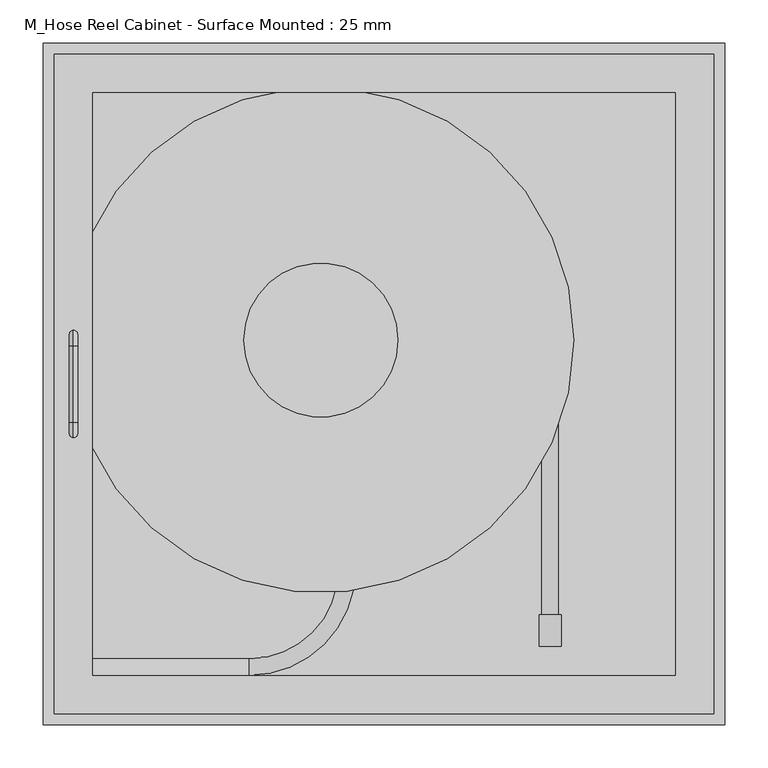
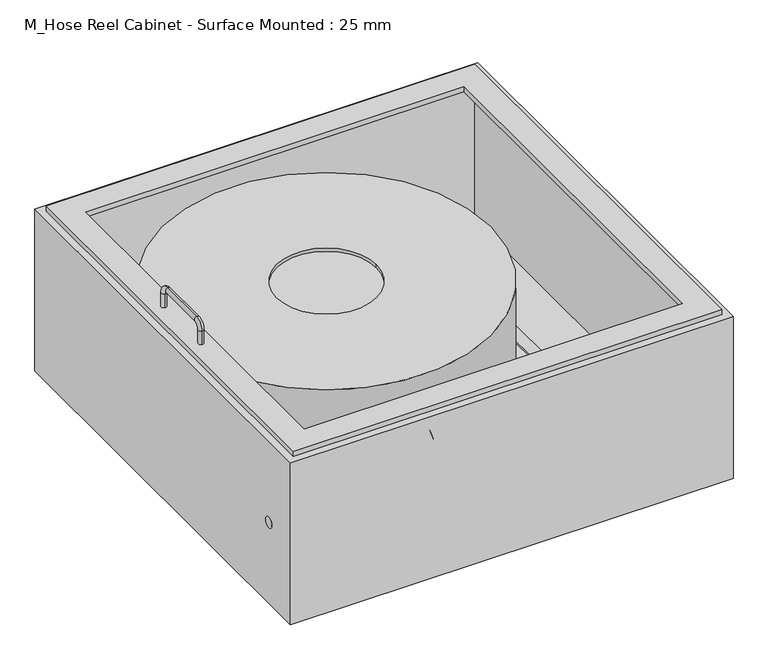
"""IFC4 building model written with IfcOpenShell, lengths in millimetres: proxy geometry, M_Hose Reel Cabinet - Surface Mounted : 25 mm."""

from ifc_helpers import new_model, si_unit, point, frame, frame_2d, origin, place, context, project, spatial, polyline, circle_curve, ellipse_curve, trimmed, segment, composite_curve, outline, extrude, faceted_brep, source, transform, mapped, element, save
from ifc_brep_helpers import plane_surface, cylinder_surface, revolved_surface, advanced_brep


def m_hose_reel_cabinet_surface_mounted_25_mm_ba365d7c(model_context):
    return source(origin(), model_context, "Body", "SolidModel", [
        advanced_brep(
        [(-365.125, 444.5, 265.1125), (219.075, 444.5, 265.1125), (15.875, 444.5, 265.1125), (-161.925, 444.5, 265.1125), (-365.125, 444.5, 20.6375), (219.075, 444.5, 20.6375), (-161.925, 444.5, 258.7625), (15.875, 444.5, 258.7625)],
        [
            (0, 1, circle_curve(frame((-73.025, 444.5, 265.1125), z_axis=(0.0, 0.0, 1.0), x_axis=(1.0, 0.0, 0.0)), 292.1)),
            (1, 0, circle_curve(frame((-73.025, 444.5, 265.1125), z_axis=(0.0, 0.0, 1.0), x_axis=(1.0, 0.0, 0.0)), 292.1)),
            (2, 3, circle_curve(frame((-73.025, 444.5, 265.1125), z_axis=(0.0, 0.0, -1.0), x_axis=(1.0, 0.0, 0.0)), 88.9)),
            (3, 2, circle_curve(frame((-73.025, 444.5, 265.1125), z_axis=(0.0, 0.0, -1.0), x_axis=(1.0, 0.0, 0.0)), 88.9)),
            (4, 5, circle_curve(frame((-73.025, 444.5, 20.6375), z_axis=(0.0, 0.0, -1.0), x_axis=(1.0, 0.0, 0.0)), 292.1)),
            (5, 4, circle_curve(frame((-73.025, 444.5, 20.6375), z_axis=(0.0, 0.0, -1.0), x_axis=(1.0, 0.0, 0.0)), 292.1)),
            (0, 4),
            (5, 1),
            (6, 7, circle_curve(frame((-73.025, 444.5, 258.7625), z_axis=(0.0, 0.0, 1.0), x_axis=(1.0, 0.0, 0.0)), 88.9)),
            (7, 6, circle_curve(frame((-73.025, 444.5, 258.7625), z_axis=(0.0, 0.0, 1.0), x_axis=(1.0, 0.0, 0.0)), 88.9)),
            (6, 3),
            (2, 7),
        ],
        [
            plane_surface(frame((219.075, 444.5, 265.1125), z_axis=(0.0, 0.0, 1.0), x_axis=(0.0, 1.0, 0.0))),
            plane_surface(frame((219.075, 444.5, 20.6375), z_axis=(0.0, 0.0, -1.0), x_axis=(0.0, -1.0, 0.0))),
            cylinder_surface(frame((-73.025, 444.5, 20.6375), z_axis=(0.0, 0.0, 1.0), x_axis=(1.0, 0.0, 0.0)), 292.1),
            plane_surface(frame((15.875, 444.5, 258.7625), z_axis=(0.0, 0.0, 1.0), x_axis=(0.0, -1.0, 0.0))),
            revolved_surface(polyline([(15.875, 444.5, 265.1125), (15.875, 444.5, 258.7625)]), (-73.025, 444.5, 258.7625), (0.0, 0.0, 1.0)),
        ],
        [
            (0, [[1, 2], [3, 4]]),
            (1, [[5, 6]]),
            (2, [[-1, 7, -6, 8]]),
            (2, [[-2, -8, -5, -7]]),
            (3, [[9, 10]]),
            (4, [[-9, 11, -3, 12]]),
            (4, [[-10, -12, -4, -11]]),
        ],
    ),
        advanced_brep(
        [(-358.775, 455.6125, 314.325), (-358.775, 446.0875, 314.325), (-358.775, 455.6125, 339.725), (-358.775, 446.0875, 339.725), (-358.775, 438.15, 347.6625), (-358.775, 438.15, 357.1875), (-358.775, 349.25, 357.1875), (-358.775, 349.25, 347.6625), (-358.775, 341.3125, 339.725), (-358.775, 331.7875, 339.725), (-358.775, 331.7875, 314.325), (-358.775, 341.3125, 314.325)],
        [
            (0, 1, circle_curve(frame((-358.775, 450.85, 314.325), z_axis=(0.0, 0.0, -1.0), x_axis=(0.0, -1.0, 0.0)), 4.7625)),
            (1, 0, circle_curve(frame((-358.775, 450.85, 314.325), z_axis=(0.0, 0.0, -1.0), x_axis=(0.0, -1.0, 0.0)), 4.7625)),
            (0, 2),
            (2, 3, circle_curve(frame((-358.775, 450.85, 339.725), z_axis=(0.0, 0.0, -1.0), x_axis=(0.0, -1.0, 0.0)), 4.7625)),
            (3, 1),
            (3, 2, circle_curve(frame((-358.775, 450.85, 339.725), z_axis=(0.0, 0.0, -1.0), x_axis=(0.0, -1.0, 0.0)), 4.7625)),
            (4, 3, circle_curve(frame((-358.775, 438.15, 339.725), z_axis=(-1.0, 0.0, 0.0), x_axis=(0.0, 1.0, 0.0)), 7.9375)),
            (2, 5, circle_curve(frame((-358.775, 438.15, 339.725), z_axis=(1.0, 0.0, 0.0), x_axis=(0.0, 1.0, 0.0)), 17.4625)),
            (5, 4, circle_curve(frame((-358.775, 438.15, 352.425), z_axis=(0.0, 1.0, 0.0), x_axis=(0.0, 0.0, -1.0)), 4.7625)),
            (4, 5, circle_curve(frame((-358.775, 438.15, 352.425), z_axis=(0.0, 1.0, 0.0), x_axis=(0.0, 0.0, -1.0)), 4.7625)),
            (5, 6),
            (6, 7, circle_curve(frame((-358.775, 349.25, 352.425), z_axis=(0.0, 1.0, 0.0), x_axis=(0.0, 0.0, -1.0)), 4.7625)),
            (7, 4),
            (7, 6, circle_curve(frame((-358.775, 349.25, 352.425), z_axis=(0.0, 1.0, 0.0), x_axis=(0.0, 0.0, -1.0)), 4.7625)),
            (8, 7, circle_curve(frame((-358.775, 349.25, 339.725), z_axis=(-1.0, 0.0, 0.0), x_axis=(0.0, 0.0, 1.0)), 7.9375)),
            (6, 9, circle_curve(frame((-358.775, 349.25, 339.725), z_axis=(1.0, 0.0, 0.0), x_axis=(0.0, 0.0, 1.0)), 17.4625)),
            (9, 8, circle_curve(frame((-358.775, 336.55, 339.725), z_axis=(0.0, 0.0, 1.0), x_axis=(0.0, 1.0, 0.0)), 4.7625)),
            (8, 9, circle_curve(frame((-358.775, 336.55, 339.725), z_axis=(0.0, 0.0, 1.0), x_axis=(0.0, 1.0, 0.0)), 4.7625)),
            (10, 11, circle_curve(frame((-358.775, 336.55, 314.325), z_axis=(0.0, 0.0, -1.0), x_axis=(0.0, 1.0, 0.0)), 4.7625)),
            (11, 10, circle_curve(frame((-358.775, 336.55, 314.325), z_axis=(0.0, 0.0, -1.0), x_axis=(0.0, 1.0, 0.0)), 4.7625)),
            (9, 10),
            (11, 8),
        ],
        [
            plane_surface(frame((-358.775, 450.85, 314.325), z_axis=(0.0, 0.0, -1.0), x_axis=(1.0, 0.0, 0.0))),
            cylinder_surface(frame((-358.775, 450.85, 314.325), z_axis=(0.0, 0.0, -1.0), x_axis=(0.0, -1.0, 0.0)), 4.7625),
            revolved_surface(trimmed(ellipse_curve(frame((-358.775, 450.85, 339.725), z_axis=(0.0, 0.0, -1.0), x_axis=(0.0, -1.0, 0.0)), 4.7625, 4.7625), [point((-358.775, 455.6125, 339.725))], [point((-358.775, 446.0875, 339.725))], True, "CARTESIAN"), (-358.775, 438.15, 339.725), (1.0, 0.0, 0.0)),
            revolved_surface(trimmed(ellipse_curve(frame((-358.775, 450.85, 339.725), z_axis=(0.0, 0.0, -1.0), x_axis=(0.0, -1.0, 0.0)), 4.7625, 4.7625), [point((-358.775, 446.0875, 339.725))], [point((-358.775, 455.6125, 339.725))], True, "CARTESIAN"), (-358.775, 438.15, 339.725), (1.0, 0.0, 0.0)),
            cylinder_surface(frame((-358.775, 438.15, 352.425), z_axis=(0.0, 1.0, 0.0), x_axis=(0.0, 0.0, -1.0)), 4.7625),
            revolved_surface(trimmed(ellipse_curve(frame((-358.775, 349.25, 352.425), z_axis=(0.0, 1.0, 0.0), x_axis=(0.0, 0.0, -1.0)), 4.7625, 4.7625), [point((-358.775, 349.25, 357.1875))], [point((-358.775, 349.25, 347.6625))], True, "CARTESIAN"), (-358.775, 349.25, 339.725), (1.0, 0.0, 0.0)),
            revolved_surface(trimmed(ellipse_curve(frame((-358.775, 349.25, 352.425), z_axis=(0.0, 1.0, 0.0), x_axis=(0.0, 0.0, -1.0)), 4.7625, 4.7625), [point((-358.775, 349.25, 347.6625))], [point((-358.775, 349.25, 357.1875))], True, "CARTESIAN"), (-358.775, 349.25, 339.725), (1.0, 0.0, 0.0)),
            plane_surface(frame((-358.775, 336.55, 314.325), z_axis=(0.0, 0.0, -1.0), x_axis=(1.0, 0.0, 0.0))),
            cylinder_surface(frame((-358.775, 336.55, 339.725), z_axis=(0.0, 0.0, 1.0), x_axis=(0.0, 1.0, 0.0)), 4.7625),
        ],
        [
            (0, [[1, 2]]),
            (1, [[-1, 3, 4, 5]]),
            (1, [[-2, -5, 6, -3]]),
            (2, [[7, -4, 8, 9]]),
            (3, [[-8, -6, -7, 10]]),
            (4, [[-9, 11, 12, 13]]),
            (4, [[-10, -13, 14, -11]]),
            (5, [[15, -12, 16, 17]]),
            (6, [[-16, -14, -15, 18]]),
            (7, [[19, 20]]),
            (8, [[-17, 21, -20, 22]]),
            (8, [[-18, -22, -19, -21]]),
        ],
    ),
        advanced_brep(
        [(-52.3875, 179.3875, 152.4), (-33.3375, 179.3875, 152.4), (-155.575, 57.15, 152.4), (-155.575, 76.2, 152.4), (-393.7, 76.2, 152.4), (-393.7, 57.15, 152.4)],
        [
            (0, 1, circle_curve(frame((-42.8625, 179.3875, 152.4), z_axis=(0.0, 1.0, 0.0), x_axis=(1.0, 0.0, 0.0)), 9.525)),
            (1, 0, circle_curve(frame((-42.8625, 179.3875, 152.4), z_axis=(0.0, 1.0, 0.0), x_axis=(1.0, 0.0, 0.0)), 9.525)),
            (2, 1, circle_curve(frame((-155.575, 179.3875, 152.4), z_axis=(0.0, 0.0, 1.0), x_axis=(1.0, 0.0, 0.0)), 122.2375)),
            (0, 3, circle_curve(frame((-155.575, 179.3875, 152.4), z_axis=(0.0, 0.0, -1.0), x_axis=(1.0, 0.0, 0.0)), 103.1875)),
            (3, 2, circle_curve(frame((-155.575, 66.675, 152.4), z_axis=(1.0, 0.0, 0.0), x_axis=(0.0, -1.0, 0.0)), 9.525)),
            (2, 3, circle_curve(frame((-155.575, 66.675, 152.4), z_axis=(1.0, 0.0, 0.0), x_axis=(0.0, -1.0, 0.0)), 9.525)),
            (4, 5, circle_curve(frame((-393.7, 66.675, 152.4), z_axis=(-1.0, 0.0, 0.0), x_axis=(0.0, -1.0, 0.0)), 9.525)),
            (5, 4, circle_curve(frame((-393.7, 66.675, 152.4), z_axis=(-1.0, 0.0, 0.0), x_axis=(0.0, -1.0, 0.0)), 9.525)),
            (3, 4),
            (5, 2),
        ],
        [
            plane_surface(frame((-42.8625, 179.3875, 152.4), z_axis=(0.0, 1.0, 0.0), x_axis=(0.0, 0.0, 1.0))),
            revolved_surface(trimmed(ellipse_curve(frame((-42.8625, 179.3875, 152.4), z_axis=(0.0, 1.0, 0.0), x_axis=(1.0, 0.0, 0.0)), 9.525, 9.525), [point((-52.3875, 179.3875, 152.4))], [point((-33.3375, 179.3875, 152.4))], True, "CARTESIAN"), (-155.575, 179.3875, 152.4), (0.0, 0.0, -1.0)),
            revolved_surface(trimmed(ellipse_curve(frame((-42.8625, 179.3875, 152.4), z_axis=(0.0, 1.0, 0.0), x_axis=(1.0, 0.0, 0.0)), 9.525, 9.525), [point((-33.3375, 179.3875, 152.4))], [point((-52.3875, 179.3875, 152.4))], True, "CARTESIAN"), (-155.575, 179.3875, 152.4), (0.0, 0.0, -1.0)),
            plane_surface(frame((-393.7, 66.675, 152.4), z_axis=(-1.0, 0.0, 0.0), x_axis=(0.0, 0.0, 1.0))),
            cylinder_surface(frame((-155.575, 66.675, 152.4), z_axis=(1.0, 0.0, 0.0), x_axis=(0.0, -1.0, 0.0)), 9.525),
        ],
        [
            (0, [[1, 2]]),
            (1, [[3, -1, 4, 5]]),
            (2, [[-4, -2, -3, 6]]),
            (3, [[7, 8]]),
            (4, [[-5, 9, -8, 10]]),
            (4, [[-6, -10, -7, -9]]),
        ],
    ),
        extrude(outline(composite_curve([segment(trimmed(circle_curve(frame_2d((147.6375, 192.0875)), 9.525), [point((147.6375, 182.5625))], [point((147.6375, 201.6125))], False, "CARTESIAN"), True, "CONTINUOUS"), segment(trimmed(circle_curve(frame_2d((147.6375, 192.0875)), 9.525), [point((147.6375, 201.6125))], [point((147.6375, 182.5625))], False, "CARTESIAN"), True, "CONTINUOUS")], self_intersect=False)), frame((0.0, 127.0, 0.0), z_axis=(0.0, 1.0, 0.0), x_axis=(0.0, 0.0, 1.0)), (0.0, 0.0, 1.0), 317.5),
        extrude(outline(composite_curve([segment(trimmed(circle_curve(frame_2d((147.6375, 192.0875)), 12.7), [point((147.6375, 179.3875))], [point((147.6375, 204.7875))], False, "CARTESIAN"), True, "CONTINUOUS"), segment(trimmed(circle_curve(frame_2d((147.6375, 192.0875)), 12.7), [point((147.6375, 204.7875))], [point((147.6375, 179.3875))], False, "CARTESIAN"), True, "CONTINUOUS")], self_intersect=False)), frame((0.0, 90.4875, 0.0), z_axis=(0.0, 1.0, 0.0), x_axis=(0.0, 0.0, 1.0)), (0.0, 0.0, 1.0), 36.5125),
        faceted_brep([(393.7, 787.4, 304.8), (-393.7, 787.4, 304.8), (-393.7, 0.0, 304.8), (393.7, 0.0, 304.8), (-381.0, 774.7, 304.8), (381.0, 774.7, 304.8), (381.0, 12.7, 304.8), (-381.0, 12.7, 304.8), (393.7, 787.4, 0.0), (393.7, 0.0, 0.0), (-393.7, 0.0, 0.0), (-393.7, 787.4, 0.0), (381.0, 774.7, 20.6375), (-381.0, 774.7, 20.6375), (-381.0, 12.7, 20.6375), (381.0, 12.7, 20.6375)], [[[0, 1, 2, 3], [4, 5, 6, 7]], [[8, 9, 10, 11]], [[1, 0, 8, 11]], [[2, 1, 11, 10]], [[3, 2, 10, 9]], [[0, 3, 9, 8]], [[12, 13, 14, 15]], [[13, 12, 5, 4]], [[14, 13, 4, 7]], [[15, 14, 7, 6]], [[12, 15, 6, 5]]]),
        extrude(outline(polyline([(381.0, 774.7), (381.0, 12.7), (-381.0, 12.7), (-381.0, 774.7), (381.0, 774.7)]), holes=[polyline([(336.55, 730.25), (-336.55, 730.25), (-336.55, 57.15), (336.55, 57.15), (336.55, 730.25)])]), frame((0.0, 0.0, 304.8), z_axis=(0.0, 0.0, 1.0), x_axis=(1.0, 0.0, 0.0)), (0.0, 0.0, 1.0), 9.525),
    ])


if __name__ == "__main__":
    model = new_model("IFC4")
    model_context = context("Model", 3, world=origin())
    ifc_project = project(units=[si_unit("LENGTHUNIT", "METRE", prefix="MILLI")], contexts=[model_context])
    site = spatial("IfcSite", under=ifc_project)
    building = spatial("IfcBuilding", under=site)
    placement = place(None, origin())
    m_hose_reel_cabinet_surface_mounted_25_mm_shape = m_hose_reel_cabinet_surface_mounted_25_mm_ba365d7c(model_context)
    element("IfcBuildingElementProxy", 1, Name="M_Hose Reel Cabinet - Surface Mounted : 25 mm", ObjectType="M_Hose Reel Cabinet - Surface Mounted : 25 mm", at=placement, inside=building, context=model_context, shape_type="MappedRepresentation", body=[
        mapped(m_hose_reel_cabinet_surface_mounted_25_mm_shape, transform((0.0, 0.0, 0.0), x_axis=(1.0, 0.0, 0.0), y_axis=(0.0, 1.0, 0.0), z_axis=(0.0, 0.0, 1.0))),
    ])
    save(model, "model.ifc")
